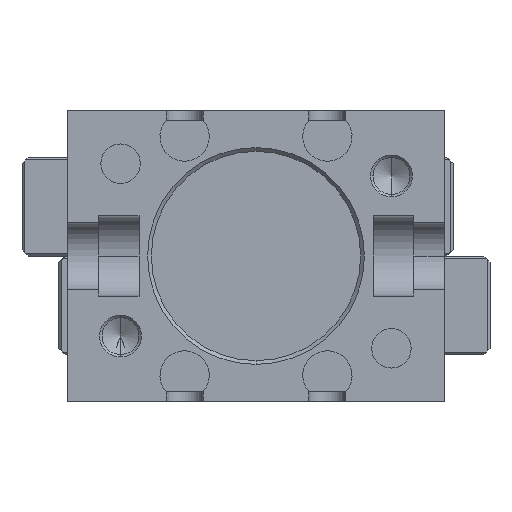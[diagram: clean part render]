
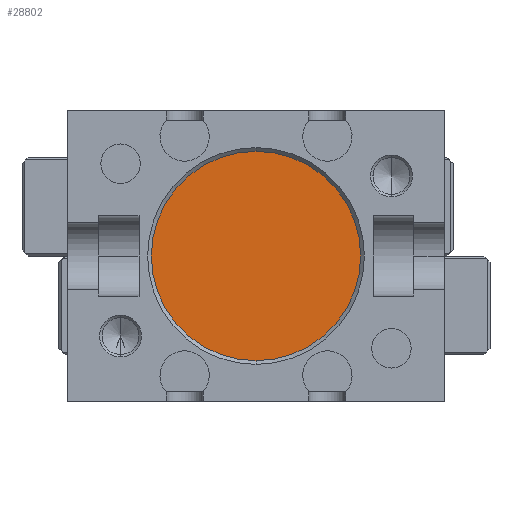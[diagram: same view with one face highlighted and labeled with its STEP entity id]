
A CAD part, front view. The second image highlights one B-rep face of the part: STEP entity #28802.
In plain terms, the highlighted planar face has unit normal (0, -1, 0).
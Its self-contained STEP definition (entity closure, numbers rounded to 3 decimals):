
#1823 = DIRECTION ( 'NONE',  ( 0., -1., 0. ) ) ;
#3501 = FACE_OUTER_BOUND ( 'NONE', #14638, .T. ) ;
#6069 = VERTEX_POINT ( 'NONE', #28361 ) ;
#8896 = AXIS2_PLACEMENT_3D ( 'NONE', #12579, #38396, #16293 ) ;
#10544 = EDGE_CURVE ( 'NONE', #43990, #6069, #34143, .T. ) ;
#11794 = ORIENTED_EDGE ( 'NONE', *, *, #34523, .T. ) ;
#12579 = CARTESIAN_POINT ( 'NONE',  ( 0., 2., 0. ) ) ;
#14638 = EDGE_LOOP ( 'NONE', ( #11794, #17849 ) ) ;
#14879 = CIRCLE ( 'NONE', #17079, 8.5 ) ;
#16293 = DIRECTION ( 'NONE',  ( 0., 0., -1. ) ) ;
#16556 = PLANE ( 'NONE',  #22887 ) ;
#17079 = AXIS2_PLACEMENT_3D ( 'NONE', #42619, #20513, #46354 ) ;
#17849 = ORIENTED_EDGE ( 'NONE', *, *, #10544, .T. ) ;
#20513 = DIRECTION ( 'NONE',  ( 0., -1., 0. ) ) ;
#22887 = AXIS2_PLACEMENT_3D ( 'NONE', #23986, #1823, #27713 ) ;
#23986 = CARTESIAN_POINT ( 'NONE',  ( 0., 2., 0. ) ) ;
#27713 = DIRECTION ( 'NONE',  ( 0., 0., -1. ) ) ;
#28361 = CARTESIAN_POINT ( 'NONE',  ( 0., 2., -8.5 ) ) ;
#28802 = ADVANCED_FACE ( 'NONE', ( #3501 ), #16556, .T. ) ;
#34143 = CIRCLE ( 'NONE', #8896, 8.5 ) ;
#34523 = EDGE_CURVE ( 'NONE', #6069, #43990, #14879, .T. ) ;
#38396 = DIRECTION ( 'NONE',  ( 0., -1., 0. ) ) ;
#42619 = CARTESIAN_POINT ( 'NONE',  ( 0., 2., 0. ) ) ;
#43990 = VERTEX_POINT ( 'NONE', #47111 ) ;
#46354 = DIRECTION ( 'NONE',  ( 0., 0., -1. ) ) ;
#47111 = CARTESIAN_POINT ( 'NONE',  ( 0., 2., 8.5 ) ) ;
